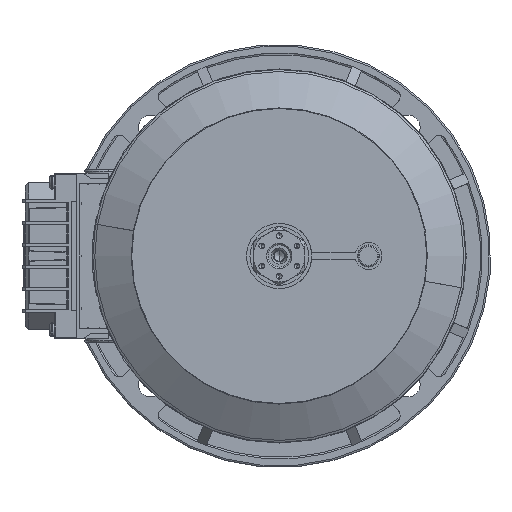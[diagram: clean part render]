
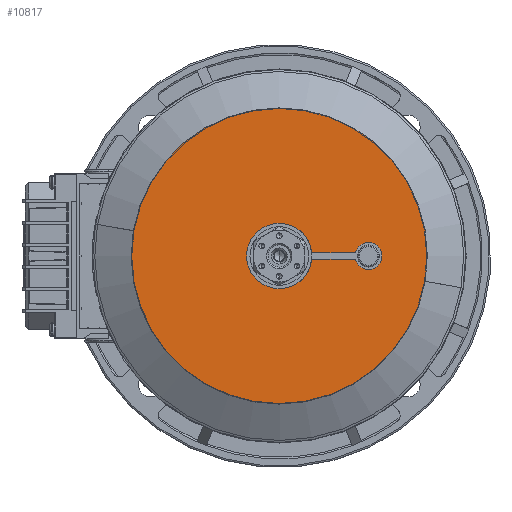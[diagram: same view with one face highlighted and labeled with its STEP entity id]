
A CAD part, left-side view. The second image highlights one B-rep face of the part: STEP entity #10817.
In plain terms, the highlighted planar face has unit normal (-1, 0, 0) as drawn and (0, -1, 0) by its records, which use the part's own axes.
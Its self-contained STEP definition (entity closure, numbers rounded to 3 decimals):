
#1763 = ORIENTED_EDGE ( 'NONE', *, *, #3901, .F. ) ;
#3901 = EDGE_CURVE ( 'NONE', #18325, #50480, #68596, .T. ) ;
#9061 = CARTESIAN_POINT ( 'NONE',  ( 0., 0., 0. ) ) ;
#9821 = EDGE_CURVE ( 'NONE', #55692, #52909, #90277, .T. ) ;
#10817 = ADVANCED_FACE ( 'NONE', ( #61277, #106058 ), #58862, .T. ) ;
#12257 = DIRECTION ( 'NONE',  ( 0., 1., 0. ) ) ;
#13044 = ORIENTED_EDGE ( 'NONE', *, *, #82247, .T. ) ;
#15145 = CARTESIAN_POINT ( 'NONE',  ( 0., 0., -13.5 ) ) ;
#16914 = CARTESIAN_POINT ( 'NONE',  ( -87.5, 0., 0. ) ) ;
#17650 = DIRECTION ( 'NONE',  ( 0., 0., 1. ) ) ;
#18325 = VERTEX_POINT ( 'NONE', #63983 ) ;
#23793 = EDGE_CURVE ( 'NONE', #50480, #18325, #51691, .T. ) ;
#24398 = AXIS2_PLACEMENT_3D ( 'NONE', #37030, #95848, #45501 ) ;
#25427 = DIRECTION ( 'NONE',  ( 0., -1., 0. ) ) ;
#31762 = CARTESIAN_POINT ( 'NONE',  ( 0., 0., 0. ) ) ;
#35986 = CIRCLE ( 'NONE', #49311, 13.5 ) ;
#36710 = CARTESIAN_POINT ( 'NONE',  ( 0., 0., -87.5 ) ) ;
#37030 = CARTESIAN_POINT ( 'NONE',  ( 0., 0., 0. ) ) ;
#40217 = DIRECTION ( 'NONE',  ( 0., 0., 1. ) ) ;
#45501 = DIRECTION ( 'NONE',  ( 0., 0., 1. ) ) ;
#49311 = AXIS2_PLACEMENT_3D ( 'NONE', #62734, #12257, #71175 ) ;
#50480 = VERTEX_POINT ( 'NONE', #36710 ) ;
#51691 = CIRCLE ( 'NONE', #24398, 87.5 ) ;
#52909 = VERTEX_POINT ( 'NONE', #15145 ) ;
#54339 = AXIS2_PLACEMENT_3D ( 'NONE', #31762, #90537, #40217 ) ;
#55692 = VERTEX_POINT ( 'NONE', #56957 ) ;
#56212 = AXIS2_PLACEMENT_3D ( 'NONE', #16914, #25427, #84231 ) ;
#56957 = CARTESIAN_POINT ( 'NONE',  ( 0., 0., 13.5 ) ) ;
#58479 = EDGE_LOOP ( 'NONE', ( #1763, #106444 ) ) ;
#58862 = PLANE ( 'NONE',  #56212 ) ;
#61277 = FACE_BOUND ( 'NONE', #92062, .T. ) ;
#62734 = CARTESIAN_POINT ( 'NONE',  ( 0., 0., 0. ) ) ;
#63983 = CARTESIAN_POINT ( 'NONE',  ( 0., 0., 87.5 ) ) ;
#67994 = DIRECTION ( 'NONE',  ( 0., 1., 0. ) ) ;
#68596 = CIRCLE ( 'NONE', #54339, 87.5 ) ;
#71175 = DIRECTION ( 'NONE',  ( 0., 0., 1. ) ) ;
#82247 = EDGE_CURVE ( 'NONE', #52909, #55692, #35986, .T. ) ;
#84231 = DIRECTION ( 'NONE',  ( 0., 0., -1. ) ) ;
#90277 = CIRCLE ( 'NONE', #106192, 13.5 ) ;
#90537 = DIRECTION ( 'NONE',  ( 0., 1., 0. ) ) ;
#92062 = EDGE_LOOP ( 'NONE', ( #92979, #13044 ) ) ;
#92979 = ORIENTED_EDGE ( 'NONE', *, *, #9821, .T. ) ;
#95848 = DIRECTION ( 'NONE',  ( 0., 1., 0. ) ) ;
#106058 = FACE_OUTER_BOUND ( 'NONE', #58479, .T. ) ;
#106192 = AXIS2_PLACEMENT_3D ( 'NONE', #9061, #67994, #17650 ) ;
#106444 = ORIENTED_EDGE ( 'NONE', *, *, #23793, .F. ) ;
